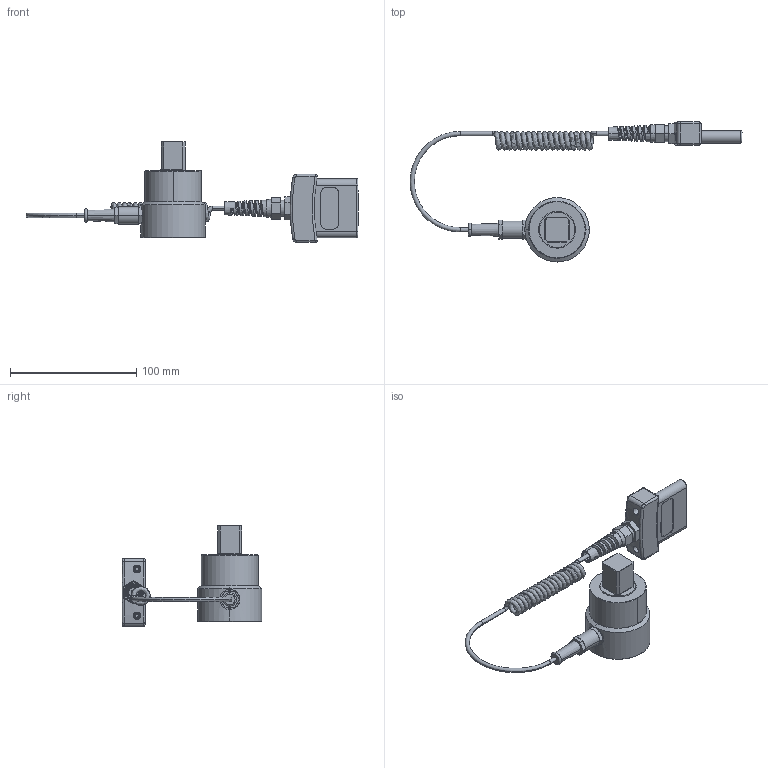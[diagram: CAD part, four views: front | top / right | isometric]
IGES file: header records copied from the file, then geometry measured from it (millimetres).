
Global section: file name: No Iges File Name specified; native system: Autodesk Inventor 2010; preprocessor: AutoDesk Inventor Iges Exporter R2010; author: mlampen; date: 20170620.152958; units: inch
Bounding box: 262.98 x 110.87 x 79.95 mm (x, y, z)
Volume: 143914.9 mm3; surface area: 40487 mm2
Topology: 4 solids, 4 shells, 497 faces, 1289 edges, 824 vertices
Faces by surface type: plane 186, revolution 97, bspline 82, cylinder 73, cone 35, torus 20, sphere 4
Full cylindrical faces by diameter (mm): 2.02 x13, 2.845 x14
